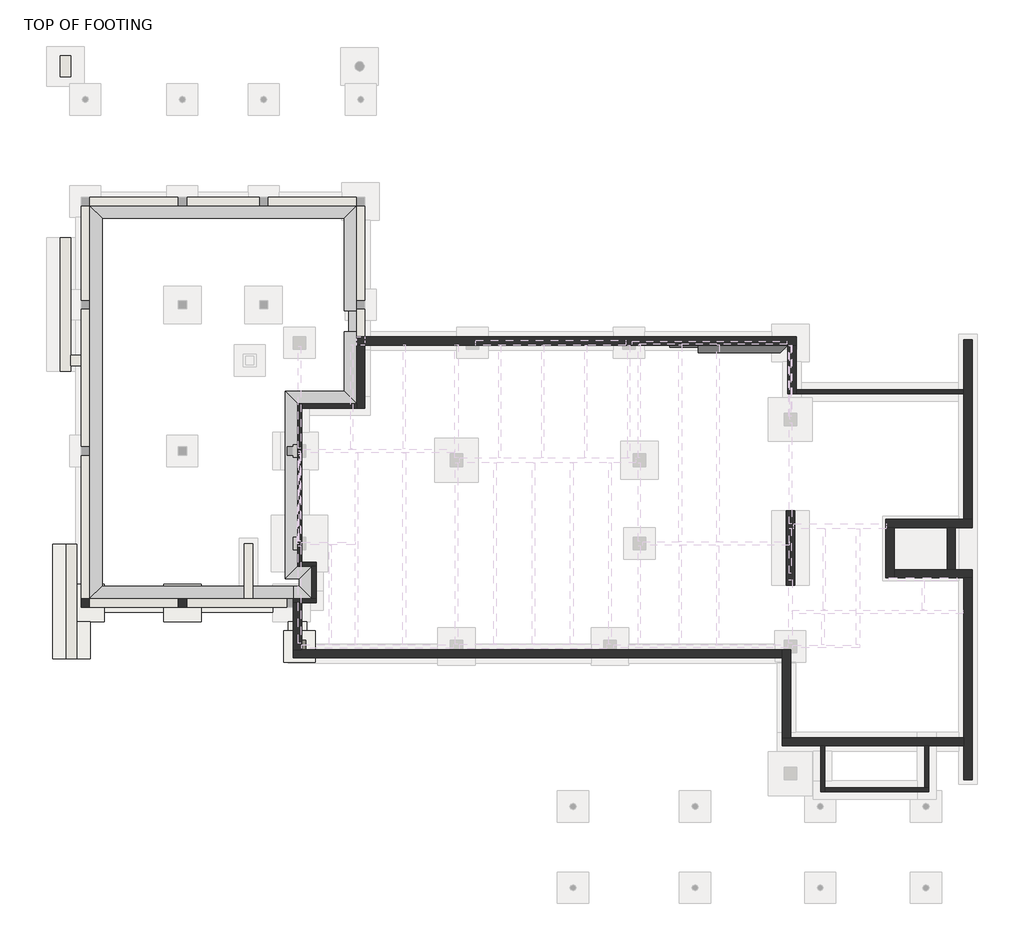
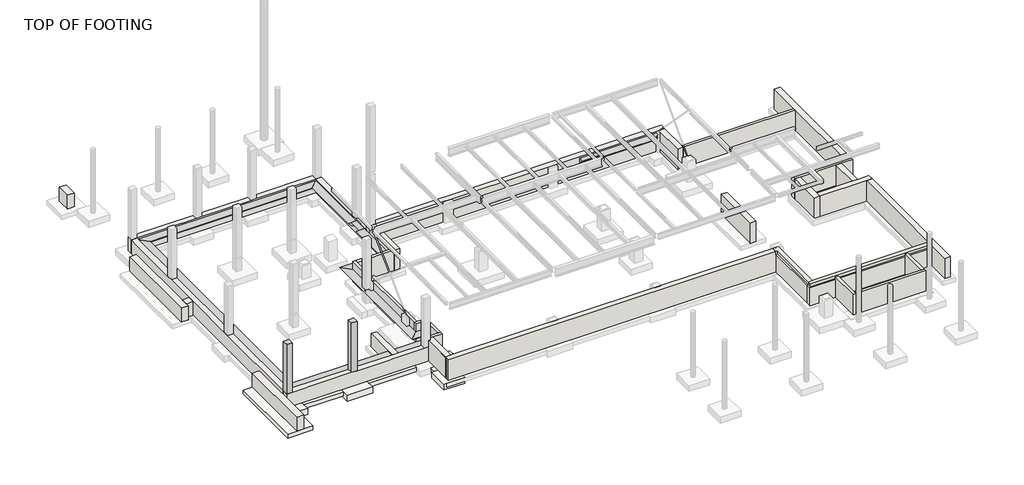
# One storey, part 1 of 4: 32 walls, 8 proxies, 3 footings, 3 slabs, 2 columns.
"""IFC4 building model written with IfcOpenShell, lengths in millimetres."""

from ifc_helpers import new_model, si_unit, frame, origin, place, context, project, spatial, polyline, outline, extrude, faceted_brep, element, save

model = new_model("IFC4")

# Units and contexts
model_context = context("Model", 3, world=origin())
ifc_project = project(units=[si_unit("LENGTHUNIT", "METRE", prefix="MILLI")], contexts=[model_context])

# Site, building, storey
site = spatial("IfcSite", under=ifc_project)
building = spatial("IfcBuilding", under=site)
storey = spatial("IfcBuildingStorey", under=building, Name="TOP OF FOOTING", Elevation=28905.2)

# Proxies
placement = place(None, origin())
element("IfcBuildingElementProxy", 1, Name="Thickened 24\" x 12\"", ObjectType="Thickened 24\" x 12\"", at=placement, inside=storey, context=model_context, shape_type="Brep", body=[
    faceted_brep([(-20560.3454607, 14520.2695005, 29565.6), (-20560.3454607, 14520.2695005, 29870.4), (-19950.7454607, 13910.6695005, 29870.4), (-20255.5454607, 14215.4695005, 29565.6), (-20560.3454607, -4618.6304995, 29565.6), (-20255.5454607, -4313.8304995, 29565.6), (-19950.7454607, -4009.0304995, 29870.4), (-20560.3454607, -4618.6304995, 29870.4)], [[[0, 1, 2, 3]], [[4, 5, 6, 7]], [[1, 0, 4, 7]], [[2, 1, 7, 6]], [[3, 2, 6, 5]], [[0, 3, 5, 4]]]),
])
element("IfcBuildingElementProxy", 2, Name="Thickened 24\" x 12\"", ObjectType="Thickened 24\" x 12\"", at=placement, inside=storey, context=model_context, shape_type="Brep", body=[
    faceted_brep([(-7555.5454607, 9402.1695005, 29565.6), (-7555.5454607, 9402.1695005, 29870.4), (-7923.8454607, 9402.1695005, 29870.4), (-8165.1454607, 9402.1695005, 29870.4), (-7860.3454607, 9402.1695005, 29565.6), (-7619.0454607, 9402.1695005, 29565.6), (-7555.5454607, 14520.2695005, 29565.6), (-7860.3454607, 14215.4695005, 29565.6), (-8165.1454607, 13910.6695005, 29870.4), (-7555.5454607, 14520.2695005, 29870.4)], [[[0, 1, 2, 3, 4, 5]], [[6, 7, 8, 9]], [[1, 0, 6, 9]], [[3, 2, 1, 9, 8]], [[4, 3, 8, 7]], [[0, 5, 4, 7, 6]]]),
])
element("IfcBuildingElementProxy", 3, Name="Thickened 24\" x 12\"", ObjectType="Thickened 24\" x 12\"", at=placement, inside=storey, context=model_context, shape_type="Brep", body=[
    faceted_brep([(-20560.3454607, -4618.6304995, 29565.6), (-20560.3454607, -4618.6304995, 29870.4), (-19950.7454607, -4009.0304995, 29870.4), (-20255.5454607, -4313.8304995, 29565.6), (-10632.1204607, -4618.6304995, 29565.6), (-10632.1204607, -4313.8304995, 29565.6), (-10632.1204607, -4009.0304995, 29870.4), (-10632.1204607, -4618.6304995, 29870.4)], [[[0, 1, 2, 3]], [[4, 5, 6, 7]], [[1, 0, 4, 7]], [[2, 1, 7, 6]], [[3, 2, 6, 5]], [[0, 3, 5, 4]]]),
])
element("IfcBuildingElementProxy", 4, Name="Thickened 24\" x 12\"", ObjectType="Thickened 24\" x 12\"", at=placement, inside=storey, context=model_context, shape_type="Brep", body=[
    faceted_brep([(-10428.9204607, -3040.6554995, 29565.6), (-10428.9204607, -3040.6554995, 29870.4), (-11038.5204607, -3650.2554995, 29870.4), (-10733.7204607, -3345.4554995, 29565.6), (-10428.9204607, 4865.0945005, 29565.6), (-10428.9204607, 4865.0945005, 29870.4), (-11038.5204607, 5474.6945005, 29870.4), (-10733.7204607, 5169.8945005, 29565.6), (-7555.5454607, 4865.0945005, 29565.6), (-7860.3454607, 5169.8945005, 29565.6), (-8165.1454607, 5474.6945005, 29870.4), (-7555.5454607, 4865.0945005, 29870.4)], [[[0, 1, 2, 3]], [[1, 0, 4, 5]], [[2, 1, 5, 6]], [[3, 2, 6, 7]], [[0, 3, 7, 4]], [[8, 9, 10, 11]], [[5, 4, 8, 11]], [[6, 5, 11, 10]], [[7, 6, 10, 9]], [[4, 7, 9, 8]]]),
])
element("IfcBuildingElementProxy", 5, Name="Thickened 24\" x 12\"", ObjectType="Thickened 24\" x 12\"", at=placement, inside=storey, context=model_context, shape_type="Brep", body=[
    faceted_brep([(13450.2545393, 7725.7695005, 30048.2), (13450.2545393, 7725.7695005, 30353.0), (12840.6545393, 7116.1695005, 30353.0), (13145.4545393, 7420.9695005, 30048.2), (9071.9295393, 7725.7695005, 30353.0), (9071.9295393, 7725.7695005, 30048.2), (9071.9295393, 7420.9695005, 30048.2), (9071.9295393, 7116.1695005, 30353.0)], [[[0, 1, 2, 3]], [[4, 5, 6, 7]], [[1, 0, 5, 4]], [[2, 1, 4, 7]], [[3, 2, 7, 6]], [[0, 3, 6, 5]]]),
    faceted_brep([(9071.9295393, 7992.4695005, 30048.2), (9071.9295393, 7992.4695005, 30353.0), (9071.9295393, 7725.7695005, 30353.0), (9071.9295393, 7382.8695005, 30353.0), (9071.9295393, 7687.6695005, 30048.2), (7700.3295393, 7992.4695005, 30353.0), (7700.3295393, 7992.4695005, 30048.2), (7700.3295393, 7725.7695005, 30048.2), (7700.3295393, 7687.6695005, 30048.2), (7700.3295393, 7382.8695005, 30353.0), (7700.3295393, 7725.7695005, 30353.0)], [[[0, 1, 2, 3, 4]], [[5, 6, 7, 8, 9, 10]], [[1, 0, 6, 5]], [[3, 2, 1, 5, 10, 9]], [[4, 3, 9, 8]], [[0, 4, 8, 7, 6]]]),
    faceted_brep([(-7555.5454607, 4865.0945005, 29565.6), (-7555.5454607, 4865.0945005, 29870.4), (-8165.1454607, 5474.6945005, 29870.4), (-7860.3454607, 5169.8945005, 29565.6), (-7555.5454607, 8386.1695005, 29870.4), (-7555.5454607, 8386.1695005, 29565.6), (-7860.3454607, 8386.1695005, 29565.6), (-8165.1454607, 8386.1695005, 29870.4)], [[[0, 1, 2, 3]], [[4, 5, 6, 7]], [[1, 0, 5, 4]], [[2, 1, 4, 7]], [[3, 2, 7, 6]], [[0, 3, 6, 5]]]),
    faceted_brep([(-7314.2454607, 8386.1695005, 29565.6), (-7314.2454607, 8386.1695005, 29870.4), (-7555.5454607, 8386.1695005, 29870.4), (-7923.8454607, 8386.1695005, 29870.4), (-7619.0454607, 8386.1695005, 29565.6), (-7314.2454607, 9402.1695005, 29870.4), (-7314.2454607, 9402.1695005, 29565.6), (-7555.5454607, 9402.1695005, 29565.6), (-7619.0454607, 9402.1695005, 29565.6), (-7923.8454607, 9402.1695005, 29870.4), (-7555.5454607, 9402.1695005, 29870.4)], [[[0, 1, 2, 3, 4]], [[5, 6, 7, 8, 9, 10]], [[1, 0, 6, 5]], [[1, 5, 10, 9, 3, 2]], [[4, 3, 9, 8]], [[0, 4, 8, 7, 6]]]),
    faceted_brep([(-7555.5454607, 14520.2695005, 29565.6), (-7555.5454607, 14520.2695005, 29870.4), (-8165.1454607, 13910.6695005, 29870.4), (-7860.3454607, 14215.4695005, 29565.6), (-20560.3454607, 14520.2695005, 29870.4), (-20560.3454607, 14520.2695005, 29565.6), (-20255.5454607, 14215.4695005, 29565.6), (-19950.7454607, 13910.6695005, 29870.4)], [[[0, 1, 2, 3]], [[4, 5, 6, 7]], [[1, 0, 5, 4]], [[2, 1, 4, 7]], [[3, 2, 7, 6]], [[0, 3, 6, 5]]]),
])
element("IfcBuildingElementProxy", 6, Name="Thickened 24\" x 12\"", ObjectType="Thickened 24\" x 12\"", at=placement, inside=storey, context=model_context, shape_type="Brep", body=[
    faceted_brep([(-10632.1204607, -4618.6304995, 29565.6), (-10632.1204607, -4618.6304995, 29870.4), (-10632.1204607, -4009.0304995, 29870.4), (-10632.1204607, -4313.8304995, 29565.6), (-9727.2454607, -4618.6304995, 29565.6), (-10032.0454607, -4313.8304995, 29565.6), (-10336.8454607, -4009.0304995, 29870.4), (-9727.2454607, -4618.6304995, 29870.4)], [[[0, 1, 2, 3]], [[4, 5, 6, 7]], [[1, 0, 4, 7]], [[2, 1, 7, 6]], [[3, 2, 6, 5]], [[0, 3, 5, 4]]]),
])
element("IfcBuildingElementProxy", 7, Name="Thickened 24\" x 12\"", ObjectType="Thickened 24\" x 12\"", at=placement, inside=storey, context=model_context, shape_type="Brep", body=[
    faceted_brep([(-9727.2454607, -4618.6304995, 29565.6), (-9727.2454607, -4618.6304995, 29870.4), (-10336.8454607, -4009.0304995, 29870.4), (-10032.0454607, -4313.8304995, 29565.6), (-9727.2454607, -3040.6554995, 29565.6), (-10032.0454607, -3345.4554995, 29565.6), (-10336.8454607, -3650.2554995, 29870.4), (-9727.2454607, -3040.6554995, 29870.4)], [[[0, 1, 2, 3]], [[4, 5, 6, 7]], [[1, 0, 4, 7]], [[2, 1, 7, 6]], [[3, 2, 6, 5]], [[0, 3, 5, 4]]]),
])
element("IfcBuildingElementProxy", 8, Name="Thickened 24\" x 12\"", ObjectType="Thickened 24\" x 12\"", at=placement, inside=storey, context=model_context, shape_type="Brep", body=[
    faceted_brep([(-9727.2454607, -3040.6554995, 29565.6), (-9727.2454607, -3040.6554995, 29870.4), (-10336.8454607, -3650.2554995, 29870.4), (-10032.0454607, -3345.4554995, 29565.6), (-10428.9204607, -3040.6554995, 29565.6), (-10733.7204607, -3345.4554995, 29565.6), (-11038.5204607, -3650.2554995, 29870.4), (-10428.9204607, -3040.6554995, 29870.4)], [[[0, 1, 2, 3]], [[4, 5, 6, 7]], [[1, 0, 4, 7]], [[2, 1, 7, 6]], [[3, 2, 6, 5]], [[0, 3, 5, 4]]]),
])

# Columns
element("IfcColumn", 9, ObjectType="Concrete-Rectangular-Column : 16 x 16", at=placement, inside=storey, context=model_context, shape_type="Brep", body=[
    faceted_brep([(-20560.3454607, -4618.6304995, 33782.0), (-20560.3454607, -5025.0304995, 33782.0), (-20560.3454607, -5025.0304995, 29972.0), (-20560.3454607, -4618.6304995, 29972.0), (-20966.7454607, -5025.0304995, 33782.0), (-20966.7454607, -5025.0304995, 29972.0), (-20966.7454607, -4720.2304995, 33782.0), (-20966.7454607, -4618.6304995, 33782.0), (-20966.7454607, -4618.6304995, 29972.0)], [[[0, 1, 2, 3]], [[1, 4, 5, 2]], [[4, 6, 7, 8, 5]], [[7, 0, 3, 8]], [[1, 0, 7, 6, 4]], [[3, 2, 5, 8]]]),
])
element("IfcColumn", 10, ObjectType="Concrete-Rectangular-Column : 16 x 16", at=placement, inside=storey, context=model_context, shape_type="SweptSolid", body=[
    extrude(outline(polyline([(-15835.9454607, -4618.6304995), (-15835.9454607, -5025.0304995), (-16242.3454607, -5025.0304995), (-16242.3454607, -4618.6304995), (-15835.9454607, -4618.6304995)])), frame((0.0, 0.0, 29972.0), z_axis=(0.0, 0.0, 1.0), x_axis=(1.0, 0.0, 0.0)), (0.0, 0.0, 1.0), 3810.0),
])

# Footings
element("IfcFooting", 11, ObjectType="Bearing Footing - 36\" x 12\"", at=placement, inside=storey, context=model_context, shape_type="SweptSolid", body=[
    extrude(outline(polyline([(-10886.1204607, -5736.2304995), (-9971.7204607, -5736.2304995), (-9971.7204607, -6180.7304995), (-10886.1204607, -6180.7304995), (-10886.1204607, -5736.2304995)])), frame((0.0, 0.0, 28600.4), z_axis=(0.0, 0.0, 1.0), x_axis=(1.0, 0.0, 0.0)), (0.0, 0.0, 1.0), 304.8),
])
element("IfcFooting", 12, ObjectType="Bearing Footing - 36\" x 12\"", at=placement, inside=storey, context=model_context, shape_type="Brep", body=[
    faceted_brep([(-19849.1454607, -4364.6304995, 28905.2), (-19849.1454607, -5279.0304995, 28905.2), (-16953.5454607, -5279.0304995, 28905.2), (-16953.5454607, -4364.6304995, 28905.2), (-19849.1454607, -5279.0304995, 28600.4), (-16953.5454607, -5279.0304995, 28600.4), (-19849.1454607, -4364.6304995, 28600.4), (-16953.5454607, -4364.6304995, 28600.4)], [[[0, 1, 2, 3]], [[1, 4, 5, 2]], [[4, 6, 7, 5]], [[6, 0, 3, 7]], [[1, 0, 6, 4]], [[3, 2, 5, 7]]]),
    faceted_brep([(-15124.7454607, -4364.6304995, 28905.2), (-15124.7454607, -5279.0304995, 28905.2), (-11647.3763201, -5279.0304995, 28905.2), (-11647.3763201, -4364.6304995, 28905.2), (-12354.5579607, -4364.6304995, 28905.2), (-13268.9579607, -4364.6304995, 28905.2), (-15124.7454607, -5279.0304995, 28600.4), (-11647.3763201, -5279.0304995, 28600.4), (-15124.7454607, -4364.6304995, 28600.4), (-13268.9579607, -4364.6304995, 28600.4), (-12354.5579607, -4364.6304995, 28600.4), (-11647.3763201, -4364.6304995, 28600.4)], [[[0, 1, 2, 3, 4, 5]], [[1, 6, 7, 2]], [[6, 8, 9, 10, 11, 7]], [[8, 0, 5, 4, 3, 11, 10, 9]], [[1, 0, 8, 6]], [[3, 2, 7, 11]]]),
])
element("IfcFooting", 13, ObjectType="Bearing Footing - 72\" x 12\" 2", at=placement, inside=storey, context=model_context, shape_type="SweptSolid", body=[
    extrude(outline(polyline([(-20517.4622482, -7552.3304995), (-22346.2622482, -7552.3304995), (-22346.2622482, -1964.3304995), (-21220.7454607, -1964.3304995), (-21220.7454607, -3907.4304995), (-21677.9454607, -3907.4304995), (-21677.9454607, -5736.2304995), (-20517.4622482, -5736.2304995), (-20517.4622482, -7552.3304995)])), frame((0.0, 0.0, 28600.4), z_axis=(0.0, 0.0, 1.0), x_axis=(1.0, 0.0, 0.0)), (0.0, 0.0, 1.0), 304.8),
])

# Slabs
element("IfcSlab", 14, ObjectType="Footing-Rectangular : 6'-0\" x 6'-0\" x 1'-6\"", at=placement, inside=storey, context=model_context, shape_type="Brep", body=[
    faceted_brep([(-19849.1454607, -3907.4304995, 28905.2), (-20306.3454607, -3907.4304995, 28905.2), (-21220.7454607, -3907.4304995, 28905.2), (-21677.9454607, -3907.4304995, 28905.2), (-21677.9454607, -5736.2304995, 28905.2), (-20517.4622482, -5736.2304995, 28905.2), (-19849.1454607, -5736.2304995, 28905.2), (-19849.1454607, -5279.0304995, 28905.2), (-19849.1454607, -4364.6304995, 28905.2), (-19849.1454607, -3907.4304995, 28448.0), (-19849.1454607, -5736.2304995, 28448.0), (-21677.9454607, -5736.2304995, 28448.0), (-21677.9454607, -3907.4304995, 28448.0), (-21677.9454607, -3907.4304995, 28600.4), (-21677.9454607, -5736.2304995, 28600.4)], [[[0, 1, 2, 3, 4, 5, 6, 7, 8]], [[9, 10, 11, 12]], [[3, 2, 1, 0, 9, 12, 13]], [[4, 3, 13, 12, 11, 14]], [[6, 5, 4, 14, 11, 10]], [[0, 8, 7, 6, 10, 9]]]),
])
element("IfcSlab", 15, ObjectType="Footing-Rectangular : 6'-0\" x 6'-0\" x 1'-6\"", at=placement, inside=storey, context=model_context, shape_type="Brep", body=[
    faceted_brep([(-15124.7454607, -3907.4304995, 28905.2), (-16953.5454607, -3907.4304995, 28905.2), (-16953.5454607, -4364.6304995, 28905.2), (-16953.5454607, -5279.0304995, 28905.2), (-16953.5454607, -5736.2304995, 28905.2), (-15124.7454607, -5736.2304995, 28905.2), (-15124.7454607, -5279.0304995, 28905.2), (-15124.7454607, -4364.6304995, 28905.2), (-15124.7454607, -3907.4304995, 28448.0), (-15124.7454607, -5736.2304995, 28448.0), (-16953.5454607, -5736.2304995, 28448.0), (-16953.5454607, -3907.4304995, 28448.0)], [[[0, 1, 2, 3, 4, 5, 6, 7]], [[8, 9, 10, 11]], [[1, 0, 8, 11]], [[4, 3, 2, 1, 11, 10]], [[5, 4, 10, 9]], [[0, 7, 6, 5, 9, 8]]]),
])
element("IfcSlab", 16, ObjectType="Footing-Rectangular_With_Pier : F1 - 5'-0\" x 5'-0\" x 1'-6\"", at=placement, inside=storey, context=model_context, shape_type="SolidModel", body=[
    extrude(outline(polyline([(-10022.5204607, -6637.9304995), (-10022.5204607, -7247.5304995), (-10632.1204607, -7247.5304995), (-10632.1204607, -6637.9304995), (-10022.5204607, -6637.9304995)])), frame((0.0, 0.0, 28905.2), z_axis=(0.0, 0.0, 1.0), x_axis=(1.0, 0.0, 0.0)), (0.0, 0.0, 1.0), 1549.4),
    faceted_brep([(-9565.3204607, -6180.7304995, 28905.2), (-9971.7204607, -6180.7304995, 28905.2), (-10886.1204607, -6180.7304995, 28905.2), (-11089.3204607, -6180.7304995, 28905.2), (-11089.3204607, -7704.7304995, 28905.2), (-10886.1204607, -7704.7304995, 28905.2), (-9565.3204607, -7704.7304995, 28905.2), (-9565.3204607, -6841.1304995, 28905.2), (-9565.3204607, -6180.7304995, 28448.0), (-9565.3204607, -7704.7304995, 28448.0), (-11089.3204607, -7704.7304995, 28448.0), (-11089.3204607, -6180.7304995, 28448.0), (-9565.3204607, -7704.7304995, 28600.4)], [[[0, 1, 2, 3, 4, 5, 6, 7]], [[8, 9, 10, 11]], [[3, 2, 1, 0, 8, 11]], [[4, 3, 11, 10]], [[6, 5, 4, 10, 9, 12]], [[0, 7, 6, 12, 9, 8]]]),
])

# Walls
element("IfcWall", 17, ObjectType="Foundation - 16\" Concrete", at=placement, inside=storey, context=model_context, shape_type="Brep", body=[
    faceted_brep([(-7555.5454607, 7725.7695005, 28905.2), (-7149.1454607, 7725.7695005, 28905.2), (13450.2545393, 7725.7695005, 28905.2), (13856.6545393, 7725.7695005, 28905.2), (13856.6545393, 7725.7695005, 30480.0), (13450.2545393, 7725.7695005, 30480.0), (-7149.1454607, 7725.7695005, 30480.0), (-7555.5454607, 7725.7695005, 30480.0), (-7555.5454607, 8132.1695005, 28905.2), (-7555.5454607, 8132.1695005, 29972.0), (-7555.5454607, 8132.1695005, 30480.0), (-7149.1454607, 8132.1695005, 30480.0), (13856.6545393, 8132.1695005, 30480.0), (13856.6545393, 8132.1695005, 28905.2), (-7149.1454607, 8132.1695005, 28905.2)], [[[0, 1, 2, 3, 4, 5, 6, 7]], [[8, 9, 10, 11, 12, 13, 14]], [[3, 2, 1, 0, 8, 14, 13]], [[7, 6, 5, 4, 12, 11, 10]], [[4, 3, 13, 12]], [[0, 7, 10, 9, 8]]]),
])
element("IfcWall", 18, ObjectType="Foundation - 16\" Concrete", at=placement, inside=storey, context=model_context, shape_type="Brep", body=[
    faceted_brep([(13450.2545393, 7725.7695005, 28905.2), (13450.2545393, 5350.8695005, 28905.2), (13450.2545393, 5350.8695005, 30480.0), (13450.2545393, 7725.7695005, 30480.0), (13856.6545393, 7725.7695005, 28905.2), (13856.6545393, 7725.7695005, 30480.0), (13856.6545393, 5554.0695005, 30480.0), (13856.6545393, 5350.8695005, 30480.0), (13856.6545393, 5350.8695005, 28905.2), (13856.6545393, 5554.0695005, 28905.2)], [[[0, 1, 2, 3]], [[4, 5, 6, 7, 8, 9]], [[1, 0, 4, 9, 8]], [[3, 2, 7, 6, 5]], [[0, 3, 5, 4]], [[2, 1, 8, 7]]]),
])
element("IfcWall", 19, ObjectType="Foundation - 16\" Concrete", at=placement, inside=storey, context=model_context, shape_type="Brep", body=[
    faceted_brep([(22019.578935, 7995.5948911, 28905.2), (22019.578935, 5554.0695005, 28905.2), (22019.578935, 5350.8695005, 28905.2), (22019.578935, -757.8304995, 28905.2), (22019.578935, -757.8304995, 30480.0), (22019.578935, 5350.8695005, 30480.0), (22019.578935, 5554.0695005, 30480.0), (22019.578935, 7995.5948911, 30480.0), (22425.978935, 7995.5948911, 28905.2), (22425.978935, 7995.5948911, 30480.0), (22425.978935, -757.8304995, 30480.0), (22425.978935, -757.8304995, 28905.2)], [[[0, 1, 2, 3, 4, 5, 6, 7]], [[8, 9, 10, 11]], [[3, 2, 1, 0, 8, 11]], [[7, 6, 5, 4, 10, 9]], [[0, 7, 9, 8]], [[4, 3, 11, 10]]]),
])
element("IfcWall", 20, ObjectType="Foundation - 16\" Concrete", at=placement, inside=storey, context=model_context, shape_type="Brep", body=[
    faceted_brep([(13177.2045393, -7095.1304995, 28905.2), (-10225.7204607, -7095.1304995, 28905.2), (-10632.1204607, -7095.1304995, 28905.2), (-10632.1204607, -7095.1304995, 30480.0), (-10225.7204607, -7095.1304995, 30480.0), (13177.2045393, -7095.1304995, 30480.0), (13177.2045393, -7501.5304995, 28905.2), (13177.2045393, -7501.5304995, 30276.8), (13177.2045393, -7501.5304995, 30480.0), (-10632.1204607, -7501.5304995, 30480.0), (-10632.1204607, -7501.5304995, 28905.2)], [[[0, 1, 2, 3, 4, 5]], [[6, 7, 8, 9, 10]], [[2, 1, 0, 6, 10]], [[5, 4, 3, 9, 8]], [[3, 2, 10, 9]], [[0, 5, 8, 7, 6]]]),
])
element("IfcWall", 21, ObjectType="Foundation - 16\" Concrete", at=placement, inside=storey, context=model_context, shape_type="Brep", body=[
    faceted_brep([(-10225.7204607, -7095.1304995, 28905.2), (-10225.7204607, -4821.8304995, 28905.2), (-10225.7204607, -4821.8304995, 30480.0), (-10225.7204607, -7095.1304995, 30480.0), (-10632.1204607, -7095.1304995, 28905.2), (-10632.1204607, -7095.1304995, 30480.0), (-10632.1204607, -5025.0304995, 30480.0), (-10632.1204607, -4821.8304995, 30480.0), (-10632.1204607, -4821.8304995, 28905.2)], [[[0, 1, 2, 3]], [[4, 5, 6, 7, 8]], [[1, 0, 4, 8]], [[3, 2, 7, 6, 5]], [[0, 3, 5, 4]], [[2, 1, 8, 7]]]),
])
element("IfcWall", 22, ObjectType="Foundation - 16\" Concrete", at=placement, inside=storey, context=model_context, shape_type="Brep", body=[
    faceted_brep([(22425.978935, -757.8304995, 28905.2), (22019.578935, -757.8304995, 28905.2), (18219.8486799, -757.8304995, 28905.2), (18219.8486799, -757.8304995, 30480.0), (22019.578935, -757.8304995, 30480.0), (22425.978935, -757.8304995, 30480.0), (22425.978935, -1164.2304995, 28905.2), (22425.978935, -1164.2304995, 30480.0), (21605.9861799, -1164.2304995, 30480.0), (21199.5861799, -1164.2304995, 30480.0), (18626.2486799, -1164.2304995, 30480.0), (18219.8486799, -1164.2304995, 30480.0), (18219.8486799, -1164.2304995, 28905.2), (18626.2486799, -1164.2304995, 28905.2), (21199.5861799, -1164.2304995, 28905.2), (21605.9861799, -1164.2304995, 28905.2)], [[[0, 1, 2, 3, 4, 5]], [[6, 7, 8, 9, 10, 11, 12, 13, 14, 15]], [[2, 1, 0, 6, 15, 14, 13, 12]], [[5, 4, 3, 11, 10, 9, 8, 7]], [[0, 5, 7, 6]], [[3, 2, 12, 11]]]),
])
element("IfcWall", 23, ObjectType="Foundation - 16\" Concrete", at=placement, inside=storey, context=model_context, shape_type="Brep", body=[
    faceted_brep([(-20966.7454607, 14520.2695005, 28905.2), (-20560.3454607, 14520.2695005, 28905.2), (-7555.5454607, 14520.2695005, 28905.2), (-7149.1454607, 14520.2695005, 28905.2), (-7149.1454607, 14520.2695005, 29972.0), (-7555.5454607, 14520.2695005, 29972.0), (-11873.5454607, 14520.2695005, 29972.0), (-12279.9454607, 14520.2695005, 29972.0), (-15835.9454607, 14520.2695005, 29972.0), (-16242.3454607, 14520.2695005, 29972.0), (-20560.3454607, 14520.2695005, 29972.0), (-20966.7454607, 14520.2695005, 29972.0), (-20966.7454607, 14926.6695005, 28905.2), (-20966.7454607, 14926.6695005, 29972.0), (-20560.3454607, 14926.6695005, 29972.0), (-16242.3454607, 14926.6695005, 29972.0), (-15835.9454607, 14926.6695005, 29972.0), (-12279.9454607, 14926.6695005, 29972.0), (-11873.5454607, 14926.6695005, 29972.0), (-7555.5454607, 14926.6695005, 29972.0), (-7149.1454607, 14926.6695005, 29972.0), (-7149.1454607, 14926.6695005, 28905.2)], [[[0, 1, 2, 3, 4, 5, 6, 7, 8, 9, 10, 11]], [[12, 13, 14, 15, 16, 17, 18, 19, 20, 21]], [[3, 2, 1, 0, 12, 21]], [[11, 10, 9, 8, 7, 6, 5, 4, 20, 19, 18, 17, 16, 15, 14, 13]], [[4, 3, 21, 20]], [[0, 11, 13, 12]]]),
])
element("IfcWall", 24, ObjectType="Foundation - 16\" Concrete", at=placement, inside=storey, context=model_context, shape_type="Brep", body=[
    faceted_brep([(-7555.5454607, 14520.2695005, 28905.2), (-7555.5454607, 8132.1695005, 28905.2), (-7555.5454607, 8132.1695005, 29972.0), (-7555.5454607, 9491.0695005, 29972.0), (-7555.5454607, 9897.4695005, 29972.0), (-7555.5454607, 14520.2695005, 29972.0), (-7149.1454607, 14520.2695005, 28905.2), (-7149.1454607, 14520.2695005, 29972.0), (-7149.1454607, 9897.4695005, 29972.0), (-7149.1454607, 9491.0695005, 29972.0), (-7149.1454607, 8132.1695005, 29972.0), (-7149.1454607, 8132.1695005, 28905.2)], [[[0, 1, 2, 3, 4, 5]], [[6, 7, 8, 9, 10, 11]], [[1, 0, 6, 11]], [[5, 4, 3, 2, 10, 9, 8, 7]], [[0, 5, 7, 6]], [[2, 1, 11, 10]]]),
])
element("IfcWall", 25, ObjectType="Foundation - 16\" Concrete", at=placement, inside=storey, context=model_context, shape_type="Brep", body=[
    faceted_brep([(-10632.1204607, -4618.6304995, 28905.2), (-12608.5579607, -4618.6304995, 28905.2), (-13014.9579607, -4618.6304995, 28905.2), (-20560.3454607, -4618.6304995, 28905.2), (-20966.7454607, -4618.6304995, 28905.2), (-20966.7454607, -4618.6304995, 29972.0), (-20560.3454607, -4618.6304995, 29972.0), (-16242.3454607, -4618.6304995, 29972.0), (-15835.9454607, -4618.6304995, 29972.0), (-13014.9579607, -4618.6304995, 29972.0), (-12608.5579607, -4618.6304995, 29972.0), (-10936.1763201, -4618.6304995, 29972.0), (-10632.1204607, -4618.6304995, 29972.0), (-10632.1204607, -5025.0304995, 28905.2), (-10632.1204607, -5025.0304995, 29972.0), (-10936.1763201, -5025.0304995, 29972.0), (-15835.9454607, -5025.0304995, 29972.0), (-16242.3454607, -5025.0304995, 29972.0), (-20560.3454607, -5025.0304995, 29972.0), (-20966.7454607, -5025.0304995, 29972.0), (-20966.7454607, -5025.0304995, 28905.2)], [[[0, 1, 2, 3, 4, 5, 6, 7, 8, 9, 10, 11, 12]], [[13, 14, 15, 16, 17, 18, 19, 20]], [[4, 3, 2, 1, 0, 13, 20]], [[12, 11, 10, 9, 8, 7, 6, 5, 19, 18, 17, 16, 15, 14]], [[0, 12, 14, 13]], [[5, 4, 20, 19]]]),
])
element("IfcWall", 26, ObjectType="Foundation - 16\" Concrete", at=placement, inside=storey, context=model_context, shape_type="Brep", body=[
    faceted_brep([(-20560.3454607, -4618.6304995, 28905.2), (-20560.3454607, 14520.2695005, 28905.2), (-20560.3454607, 14520.2695005, 29972.0), (-20560.3454607, 9897.4695005, 29972.0), (-20560.3454607, 9491.0695005, 29972.0), (-20560.3454607, 2785.4695005, 29972.0), (-20560.3454607, 2379.0695005, 29972.0), (-20560.3454607, -4618.6304995, 29972.0), (-20966.7454607, -4618.6304995, 28905.2), (-20966.7454607, -4618.6304995, 29972.0), (-20966.7454607, 2379.0695005, 29972.0), (-20966.7454607, 2785.4695005, 29972.0), (-20966.7454607, 6722.4695005, 29972.0), (-20966.7454607, 7230.4695005, 29972.0), (-20966.7454607, 9491.0695005, 29972.0), (-20966.7454607, 9897.4695005, 29972.0), (-20966.7454607, 14520.2695005, 29972.0), (-20966.7454607, 14520.2695005, 28905.2), (-20966.7454607, 7230.4695005, 28905.2), (-20966.7454607, 6722.4695005, 28905.2)], [[[0, 1, 2, 3, 4, 5, 6, 7]], [[8, 9, 10, 11, 12, 13, 14, 15, 16, 17, 18, 19]], [[1, 0, 8, 19, 18, 17]], [[7, 6, 5, 4, 3, 2, 16, 15, 14, 13, 12, 11, 10, 9]], [[0, 7, 9, 8]], [[2, 1, 17, 16]]]),
])
element("IfcWall", 27, ObjectType="Foundation - 16\" Concrete", at=placement, inside=storey, context=model_context, shape_type="Brep", body=[
    faceted_brep([(-7555.5454607, 7725.7695005, 30480.0), (-7555.5454607, 7725.7695005, 28905.2), (-7555.5454607, 4865.0945005, 28905.2), (-7555.5454607, 4661.8945005, 28905.2), (-7555.5454607, 4661.8945005, 30480.0), (-7555.5454607, 4865.0945005, 30480.0), (-7149.1454607, 7725.7695005, 28905.2), (-7149.1454607, 7725.7695005, 30480.0), (-7149.1454607, 4661.8945005, 30480.0), (-7149.1454607, 4661.8945005, 28905.2)], [[[0, 1, 2, 3, 4, 5]], [[6, 7, 8, 9]], [[3, 2, 1, 6, 9]], [[0, 5, 4, 8, 7]], [[4, 3, 9, 8]], [[0, 7, 6, 1]]]),
])
element("IfcWall", 28, ObjectType="Foundation - 16\" Concrete", at=placement, inside=storey, context=model_context, shape_type="Brep", body=[
    faceted_brep([(18626.2486799, -3602.6304995, 28905.2), (18626.2486799, -3196.2304995, 28905.2), (18626.2486799, -1164.2304995, 28905.2), (18626.2486799, -1164.2304995, 30480.0), (18626.2486799, -3196.2304995, 30480.0), (18626.2486799, -3602.6304995, 30480.0), (18219.8486799, -3602.6304995, 28905.2), (18219.8486799, -3602.6304995, 30480.0), (18219.8486799, -1164.2304995, 30480.0), (18219.8486799, -1164.2304995, 28905.2)], [[[0, 1, 2, 3, 4, 5]], [[6, 7, 8, 9]], [[2, 1, 0, 6, 9]], [[5, 4, 3, 8, 7]], [[0, 5, 7, 6]], [[3, 2, 9, 8]]]),
])
element("IfcWall", 29, ObjectType="Foundation - 16\" Concrete", at=placement, inside=storey, context=model_context, shape_type="Brep", body=[
    faceted_brep([(18626.2486799, -3602.6304995, 28905.2), (22019.578935, -3602.6304995, 28905.2), (22425.978935, -3602.6304995, 28905.2), (22425.978935, -3602.6304995, 30480.0), (22019.578935, -3602.6304995, 30480.0), (18626.2486799, -3602.6304995, 30480.0), (18626.2486799, -3196.2304995, 28905.2), (18626.2486799, -3196.2304995, 30480.0), (21199.5861799, -3196.2304995, 30480.0), (21605.9861799, -3196.2304995, 30480.0), (22425.978935, -3196.2304995, 30480.0), (22425.978935, -3196.2304995, 28905.2), (21605.9861799, -3196.2304995, 28905.2), (21199.5861799, -3196.2304995, 28905.2)], [[[0, 1, 2, 3, 4, 5]], [[6, 7, 8, 9, 10, 11, 12, 13]], [[2, 1, 0, 6, 13, 12, 11]], [[5, 4, 3, 10, 9, 8, 7]], [[0, 5, 7, 6]], [[3, 2, 11, 10]]]),
])
element("IfcWall", 30, ObjectType="Foundation - 16\" Concrete", at=placement, inside=storey, context=model_context, shape_type="SweptSolid", body=[
    extrude(outline(polyline([(21605.9861799, -1164.2304995), (21605.9861799, -3196.2304995), (21199.5861799, -3196.2304995), (21199.5861799, -1164.2304995), (21605.9861799, -1164.2304995)])), frame((0.0, 0.0, 28905.2), z_axis=(0.0, 0.0, 1.0), x_axis=(1.0, 0.0, 0.0)), (0.0, 0.0, 1.0), 1574.8),
])
element("IfcWall", 31, ObjectType="Foundation - 16\" Concrete", at=placement, inside=storey, context=model_context, shape_type="SweptSolid", body=[
    extrude(outline(polyline([(-12608.5579607, -1935.7554995), (-12608.5579607, -4618.6304995), (-13014.9579607, -4618.6304995), (-13014.9579607, -1935.7554995), (-12608.5579607, -1935.7554995)])), frame((0.0, 0.0, 28905.2), z_axis=(0.0, 0.0, 1.0), x_axis=(1.0, 0.0, 0.0)), (0.0, 0.0, 1.0), 1066.8),
])
element("IfcWall", 32, ObjectType="Foundation - 16\" Concrete", at=placement, inside=storey, context=model_context, shape_type="Brep", body=[
    faceted_brep([(22019.578935, -3602.6304995, 28905.2), (22019.578935, -11381.3804995, 28905.2), (22019.578935, -11787.7804995, 28905.2), (22019.578935, -13445.1304995, 28905.2), (22019.578935, -13445.1304995, 30480.0), (22019.578935, -11686.1804995, 30480.0), (22019.578935, -11381.3804995, 30480.0), (22019.578935, -3602.6304995, 30480.0), (22425.978935, -3602.6304995, 28905.2), (22425.978935, -3602.6304995, 30480.0), (22425.978935, -13445.1304995, 30480.0), (22425.978935, -13445.1304995, 28905.2)], [[[0, 1, 2, 3, 4, 5, 6, 7]], [[8, 9, 10, 11]], [[3, 2, 1, 0, 8, 11]], [[4, 3, 11, 10]], [[7, 6, 5, 4, 10, 9]], [[0, 7, 9, 8]]]),
])
element("IfcWall", 33, ObjectType="Foundation - 16\" Concrete", at=placement, inside=storey, context=model_context, shape_type="SweptSolid", body=[
    extrude(outline(polyline([(13364.5295393, -3958.2304995), (13364.5295393, -326.0304995), (13770.9295393, -326.0304995), (13770.9295393, -3958.2304995), (13364.5295393, -3958.2304995)])), frame((0.0, 0.0, 28905.2), z_axis=(0.0, 0.0, 1.0), x_axis=(1.0, 0.0, 0.0)), (0.0, 0.0, 1.0), 1574.8),
])
element("IfcWall", 34, ObjectType="Foundation - 16\" Concrete w/Brick Ledge", at=placement, inside=storey, context=model_context, shape_type="Brep", body=[
    faceted_brep([(22019.578935, -11381.3804995, 28905.2), (13583.6045393, -11381.3804995, 28905.2), (13177.2045393, -11381.3804995, 28905.2), (13177.2045393, -11381.3804995, 30276.8), (13278.8045393, -11381.3804995, 30276.8), (13278.8045393, -11381.3804995, 30480.0), (13583.6045393, -11381.3804995, 30480.0), (22019.578935, -11381.3804995, 30480.0), (13177.2045393, -11787.7804995, 28905.2), (15037.7545393, -11787.7804995, 28905.2), (15240.9545393, -11787.7804995, 28905.2), (20105.0545393, -11787.7804995, 28905.2), (20308.2545393, -11787.7804995, 28905.2), (22019.578935, -11787.7804995, 28905.2), (22019.578935, -11787.7804995, 30276.8), (13177.2045393, -11787.7804995, 30276.8), (13278.8045393, -11686.1804995, 30480.0), (22019.578935, -11686.1804995, 30480.0), (13278.8045393, -11686.1804995, 30276.8), (22019.578935, -11686.1804995, 30276.8)], [[[0, 1, 2, 3, 4, 5, 6, 7]], [[8, 9, 10, 11, 12, 13, 14, 15]], [[2, 1, 0, 13, 12, 11, 10, 9, 8]], [[7, 6, 5, 16, 17]], [[2, 8, 15, 3]], [[18, 19, 17, 16]], [[19, 18, 4, 3, 15, 14]], [[18, 16, 5, 4]], [[0, 7, 17, 19, 14, 13]]]),
])
element("IfcWall", 35, ObjectType="Foundation - 16\" Concrete w/Brick Ledge", at=placement, inside=storey, context=model_context, shape_type="Brep", body=[
    faceted_brep([(13583.6045393, -11381.3804995, 28905.2), (13583.6045393, -7095.1304995, 28905.2), (13583.6045393, -7095.1304995, 30480.0), (13583.6045393, -11381.3804995, 30480.0), (13177.2045393, -7095.1304995, 28905.2), (13177.2045393, -7501.5304995, 28905.2), (13177.2045393, -11381.3804995, 28905.2), (13177.2045393, -11381.3804995, 30276.8), (13177.2045393, -7501.5304995, 30276.8), (13177.2045393, -7501.5304995, 30480.0), (13177.2045393, -7095.1304995, 30480.0), (13278.8045393, -7501.5304995, 30480.0), (13278.8045393, -11381.3804995, 30480.0), (13278.8045393, -11381.3804995, 30276.8), (13278.8045393, -7501.5304995, 30276.8)], [[[0, 1, 2, 3]], [[4, 5, 6, 7, 8, 9, 10]], [[1, 0, 6, 5, 4]], [[3, 2, 10, 9, 11, 12]], [[2, 1, 4, 10]], [[0, 3, 12, 13, 7, 6]], [[8, 14, 11, 9]], [[11, 14, 13, 12]], [[14, 8, 7, 13]]]),
])
element("IfcWall", 36, ObjectType="Foundation - 20\" Concrete", at=placement, inside=storey, context=model_context, shape_type="Brep", body=[
    faceted_brep([(-21990.9734711, 12968.7995005, 28905.2), (-21990.9734711, 6469.2695005, 28905.2), (-21990.9734711, 6469.2695005, 29972.0), (-21990.9734711, 12968.7995005, 29972.0), (-21482.9734711, 12968.7995005, 28905.2), (-21482.9734711, 12968.7995005, 29972.0), (-21482.9734711, 7230.4695005, 29972.0), (-21482.9734711, 6722.4695005, 29972.0), (-21482.9734711, 6469.2695005, 29972.0), (-21482.9734711, 6469.2695005, 28905.2), (-21482.9734711, 6722.4695005, 28905.2), (-21482.9734711, 7230.4695005, 28905.2)], [[[0, 1, 2, 3]], [[4, 5, 6, 7, 8, 9, 10, 11]], [[1, 0, 4, 11, 10, 9]], [[2, 1, 9, 8]], [[3, 2, 8, 7, 6, 5]], [[0, 3, 5, 4]]]),
])
element("IfcWall", 37, ObjectType="Foundation - 20\" Concrete", at=placement, inside=storey, context=model_context, shape_type="SweptSolid", body=[
    extrude(outline(polyline([(-21685.8622482, -7552.3304995), (-21685.8622482, -1964.3304995), (-21177.8622482, -1964.3304995), (-21177.8622482, -7552.3304995), (-21685.8622482, -7552.3304995)])), frame((0.0, 0.0, 28905.2), z_axis=(0.0, 0.0, 1.0), x_axis=(1.0, 0.0, 0.0)), (0.0, 0.0, 1.0), 1066.8),
])
element("IfcWall", 38, ObjectType="Foundation - 20\" Concrete", at=placement, inside=storey, context=model_context, shape_type="SweptSolid", body=[
    extrude(outline(polyline([(-21990.9919313, 20797.4082736), (-21990.9919313, 21813.4082736), (-21482.9919313, 21813.4082736), (-21482.9919313, 20797.4082736), (-21990.9919313, 20797.4082736)])), frame((0.0, 0.0, 28905.2), z_axis=(0.0, 0.0, 1.0), x_axis=(1.0, 0.0, 0.0)), (0.0, 0.0, 1.0), 1066.8),
])
element("IfcWall", 39, ObjectType="Foundation - 20\" Concrete", at=placement, inside=storey, context=model_context, shape_type="SweptSolid", body=[
    extrude(outline(polyline([(-20966.7454607, 6722.4695005), (-21482.9734711, 6722.4695005), (-21482.9734711, 7230.4695005), (-20966.7454607, 7230.4695005), (-20966.7454607, 6722.4695005)])), frame((0.0, 0.0, 28905.2), z_axis=(0.0, 0.0, 1.0), x_axis=(1.0, 0.0, 0.0)), (0.0, 0.0, 1.0), 1066.8),
])
element("IfcWall", 40, ObjectType="Foundation - 8\" Concrete", at=placement, inside=storey, context=model_context, shape_type="SweptSolid", body=[
    extrude(outline(polyline([(22019.578935, 5350.8695005), (13856.6545393, 5350.8695005), (13856.6545393, 5554.0695005), (22019.578935, 5554.0695005), (22019.578935, 5350.8695005)])), frame((0.0, 0.0, 28905.2), z_axis=(0.0, 0.0, 1.0), x_axis=(1.0, 0.0, 0.0)), (0.0, 0.0, 1.0), 1574.8),
])
element("IfcWall", 41, ObjectType="Foundation - 8\" Concrete", at=placement, inside=storey, context=model_context, shape_type="Brep", body=[
    faceted_brep([(-10225.7204607, -2837.4554995, 28905.2), (-10225.7204607, 4661.8945005, 28905.2), (-10225.7204607, 4865.0945005, 28905.2), (-10225.7204607, 4865.0945005, 30480.0), (-10225.7204607, 4661.8945005, 30480.0), (-10225.7204607, -2837.4554995, 30480.0), (-10428.9204607, -2837.4554995, 28905.2), (-10428.9204607, -2837.4554995, 30480.0), (-10428.9204607, 4865.0945005, 30480.0), (-10428.9204607, 4865.0945005, 28905.2)], [[[0, 1, 2, 3, 4, 5]], [[6, 7, 8, 9]], [[2, 1, 0, 6, 9]], [[5, 4, 3, 8, 7]], [[3, 2, 9, 8]], [[0, 5, 7, 6]]]),
])
element("IfcWall", 42, ObjectType="Foundation - 8\" Concrete", at=placement, inside=storey, context=model_context, shape_type="SweptSolid", body=[
    extrude(outline(polyline([(-10225.7204607, 4865.0945005), (-7555.5454607, 4865.0945005), (-7555.5454607, 4661.8945005), (-10225.7204607, 4661.8945005), (-10225.7204607, 4865.0945005)])), frame((0.0, 0.0, 28905.2), z_axis=(0.0, 0.0, 1.0), x_axis=(1.0, 0.0, 0.0)), (0.0, 0.0, 1.0), 1574.8),
])
element("IfcWall", 43, ObjectType="Foundation - 8\" Concrete", at=placement, inside=storey, context=model_context, shape_type="Brep", body=[
    faceted_brep([(-10428.9204607, -3040.6554995, 28905.2), (-9727.2454607, -3040.6554995, 28905.2), (-9524.0454607, -3040.6554995, 28905.2), (-9524.0454607, -3040.6554995, 30480.0), (-9727.2454607, -3040.6554995, 30480.0), (-10428.9204607, -3040.6554995, 30480.0), (-10428.9204607, -2837.4554995, 28905.2), (-10428.9204607, -2837.4554995, 30480.0), (-10225.7204607, -2837.4554995, 30480.0), (-9524.0454607, -2837.4554995, 30480.0), (-9524.0454607, -2837.4554995, 28905.2), (-10225.7204607, -2837.4554995, 28905.2)], [[[0, 1, 2, 3, 4, 5]], [[6, 7, 8, 9, 10, 11]], [[2, 1, 0, 6, 11, 10]], [[5, 4, 3, 9, 8, 7]], [[3, 2, 10, 9]], [[0, 5, 7, 6]]]),
])
element("IfcWall", 44, ObjectType="Foundation - 8\" Concrete", at=placement, inside=storey, context=model_context, shape_type="SweptSolid", body=[
    extrude(outline(polyline([(-9727.2454607, -4618.6304995), (-9727.2454607, -3040.6554995), (-9524.0454607, -3040.6554995), (-9524.0454607, -4618.6304995), (-9727.2454607, -4618.6304995)])), frame((0.0, 0.0, 28905.2), z_axis=(0.0, 0.0, 1.0), x_axis=(1.0, 0.0, 0.0)), (0.0, 0.0, 1.0), 1574.8),
])
element("IfcWall", 45, ObjectType="Foundation - 8\" Concrete", at=placement, inside=storey, context=model_context, shape_type="Brep", body=[
    faceted_brep([(-9524.0454607, -4618.6304995, 28905.2), (-9727.2454607, -4618.6304995, 28905.2), (-10632.1204607, -4618.6304995, 28905.2), (-10632.1204607, -4618.6304995, 29972.0), (-10632.1204607, -4618.6304995, 30480.0), (-10529.7763201, -4618.6304995, 30480.0), (-9727.2454607, -4618.6304995, 30480.0), (-9524.0454607, -4618.6304995, 30480.0), (-9524.0454607, -4821.8304995, 28905.2), (-9524.0454607, -4821.8304995, 30480.0), (-10225.7204607, -4821.8304995, 30480.0), (-10632.1204607, -4821.8304995, 30480.0), (-10632.1204607, -4821.8304995, 28905.2), (-10225.7204607, -4821.8304995, 28905.2)], [[[0, 1, 2, 3, 4, 5, 6, 7]], [[8, 9, 10, 11, 12, 13]], [[2, 1, 0, 8, 13, 12]], [[7, 6, 5, 4, 11, 10, 9]], [[0, 7, 9, 8]], [[4, 3, 2, 12, 11]]]),
])
element("IfcWall", 46, ObjectType="Foundation - 8\" Concrete", at=placement, inside=storey, context=model_context, shape_type="Brep", body=[
    faceted_brep([(15037.7545393, -11787.7804995, 28905.2), (15037.7545393, -14029.3304995, 28905.2), (15037.7545393, -14029.3304995, 30480.0), (15037.7545393, -11787.7804995, 30480.0), (15240.9545393, -11787.7804995, 28905.2), (15240.9545393, -11787.7804995, 30480.0), (15240.9545393, -13826.1304995, 30480.0), (15240.9545393, -14029.3304995, 30480.0), (15240.9545393, -14029.3304995, 28905.2), (15240.9545393, -13826.1304995, 28905.2)], [[[0, 1, 2, 3]], [[4, 5, 6, 7, 8, 9]], [[1, 0, 4, 9, 8]], [[3, 2, 7, 6, 5]], [[2, 1, 8, 7]], [[0, 3, 5, 4]]]),
])
element("IfcWall", 47, ObjectType="Foundation - 8\" Concrete", at=placement, inside=storey, context=model_context, shape_type="Brep", body=[
    faceted_brep([(15240.9545393, -14029.3304995, 28905.2), (20308.2545393, -14029.3304995, 28905.2), (20308.2545393, -14029.3304995, 30480.0), (15240.9545393, -14029.3304995, 30480.0), (15240.9545393, -13826.1304995, 28905.2), (15240.9545393, -13826.1304995, 30480.0), (20105.0545393, -13826.1304995, 30480.0), (20308.2545393, -13826.1304995, 30480.0), (20308.2545393, -13826.1304995, 28905.2), (20105.0545393, -13826.1304995, 28905.2)], [[[0, 1, 2, 3]], [[4, 5, 6, 7, 8, 9]], [[1, 0, 4, 9, 8]], [[3, 2, 7, 6, 5]], [[0, 3, 5, 4]], [[2, 1, 8, 7]]]),
])
element("IfcWall", 48, ObjectType="Foundation - 8\" Concrete", at=placement, inside=storey, context=model_context, shape_type="SweptSolid", body=[
    extrude(outline(polyline([(20308.2545393, -11787.7804995), (20308.2545393, -13826.1304995), (20105.0545393, -13826.1304995), (20105.0545393, -11787.7804995), (20308.2545393, -11787.7804995)])), frame((0.0, 0.0, 28905.2), z_axis=(0.0, 0.0, 1.0), x_axis=(1.0, 0.0, 0.0)), (0.0, 0.0, 1.0), 1574.8),
])

save(model, "model.ifc")
